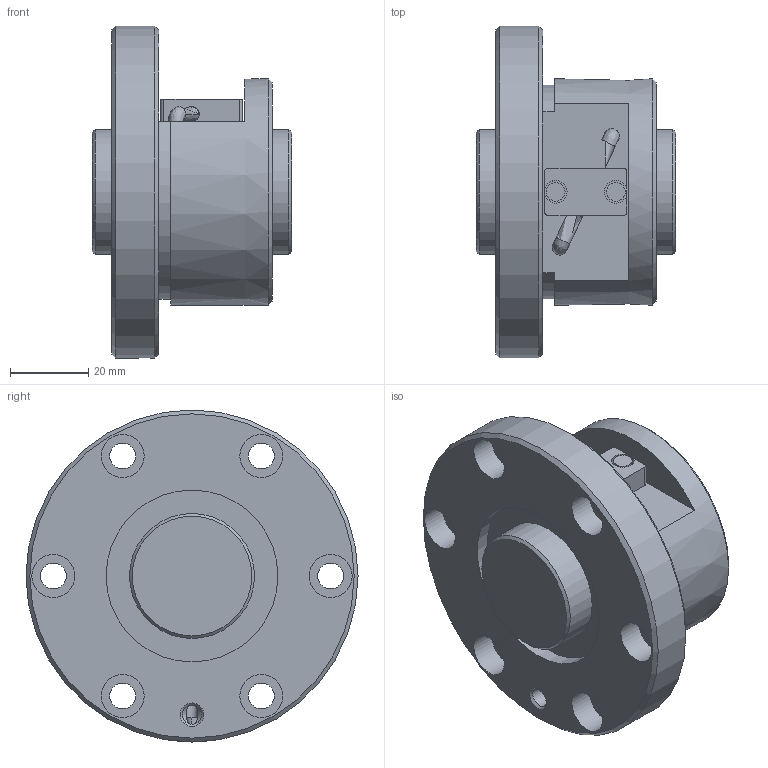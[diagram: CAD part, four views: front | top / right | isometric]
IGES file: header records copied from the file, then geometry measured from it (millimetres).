
Start section: Data from Parasolid IGES Translator 26.0.171, Copyright(c) 2006 Siemens PLM Software. All Rights Reserved.
Global section: file name: BNF3205V-2.5RRG1+51LC0_000_rev.igs; native system: By Siemens PLM Incorporated; preprocessor: XPlus GENERIC/IGES 26.0.171; author: Noname; organization: Noname; date: 20240806.073621; units: millimetre
Bounding box: 51 x 85 x 85 mm (x, y, z)
Surface area: 32434.6 mm2 (no closed solid volume)
Topology: 0 solids, 0 shells, 73 faces, 334 edges, 302 vertices
Faces by surface type: revolution 46, extrusion 27
